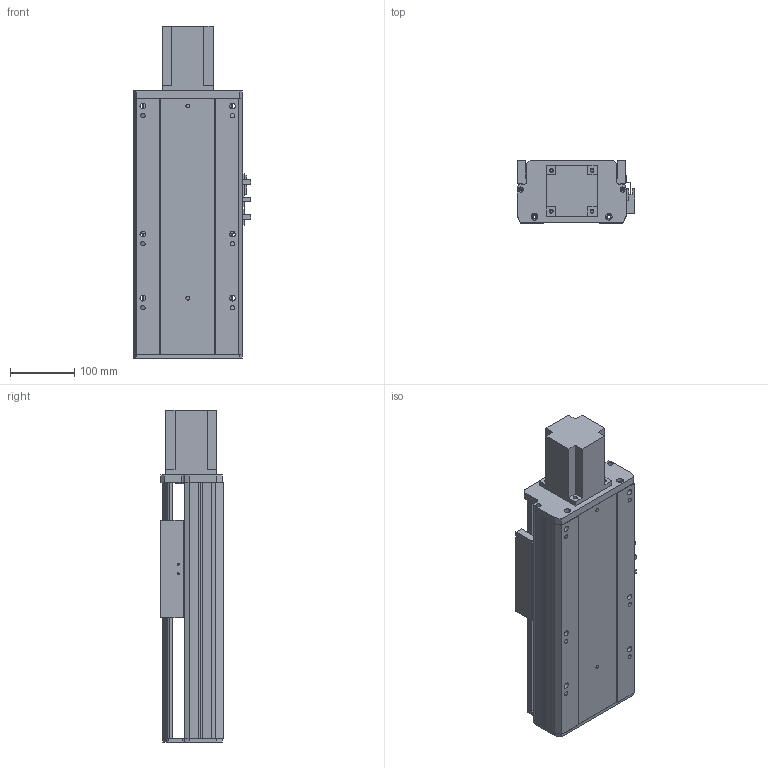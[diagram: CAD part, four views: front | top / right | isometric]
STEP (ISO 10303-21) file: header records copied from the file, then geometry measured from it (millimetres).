
FILE_DESCRIPTION (( 'STEP AP203' ), '1' );
FILE_NAME ('Y170-D10-S150-BD-P750W.STEP', '2020-01-22T03:47:40', ( '微软用户' ), ( '微软中国' ), 'SwSTEP 2.0', 'SolidWorks 2017', '' );
FILE_SCHEMA (( 'CONFIG_CONTROL_DESIGN' ));
Length unit declared in the file: millimetre
Products named in the file (10): Y170-陔遴奻裔-BD; Y170--雄赽釱-梓--; YD-Y100-135-新外置传感挡片(通用）; Y170-D10-S150-BD-P750W; Y100-135俋离換覜ん; 170--掛极-BD; Y170-萇儂楊擘啣--; 135-盓傅釱-FK15; 侂狟750W; Y170耜裔--準---
Assembly tree (11 placements, depth 2):
  Y170-D10-S150-BD-P750W
    YD-Y100-135-新外置传感挡片(通用）
    Y100-135俋离換覜ん  x3
    170--掛极-BD
    Y170-萇儂楊擘啣--
    135-盓傅釱-FK15
    侂狟750W
    Y170耜裔--準---
    Y170-陔遴奻裔-BD
    Y170--雄赽釱-梓--
Bounding box: 183.5 x 97 x 518.5 mm (x, y, z)
Volume: 2687738.1 mm3; surface area: 787187.5 mm2
Topology: 11 solids, 11 shells, 780 faces, 2163 edges, 1432 vertices
Faces by surface type: cylinder 390, plane 388, torus 2
Entity records: 24751 total; most frequent: CARTESIAN_POINT 4235, DIRECTION 4185, ORIENTED_EDGE 3990, EDGE_CURVE 1995, AXIS2_PLACEMENT_3D 1494, VERTEX_POINT 1320, LINE 1197, VECTOR 1197
